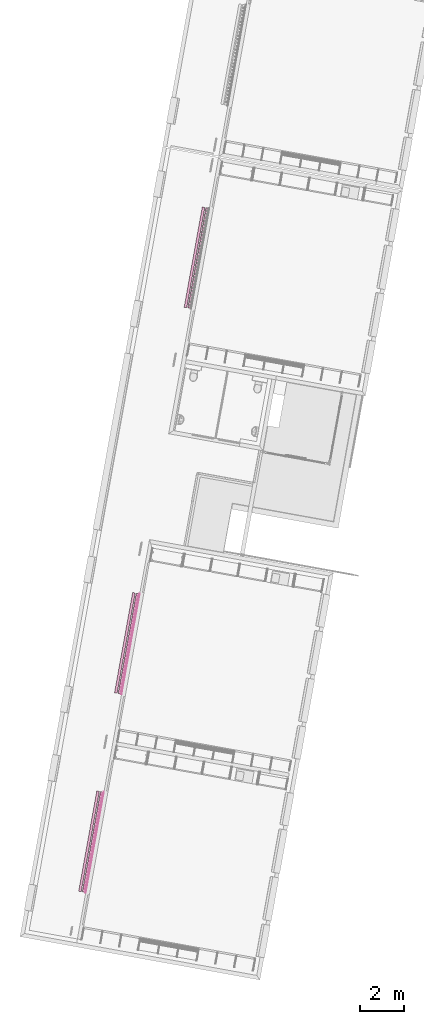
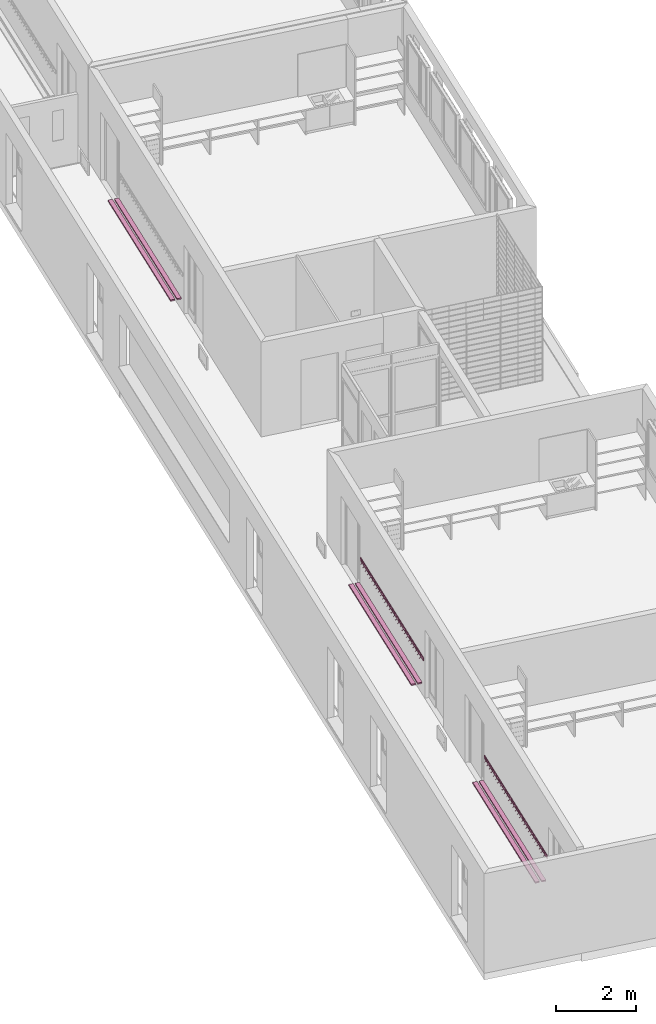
# One storey, part 5 of 52: 5 furnishings.
"""IFC2X3 building model written with IfcOpenShell, lengths in metres."""

from ifc_helpers import new_model, entity, si_unit, converted_unit, derived_unit, money_unit, direction, frame, origin_with_axes, place, context, subcontext, project, spatial, faceted_brep, source, transform, mapped, material, type_object, element, save


model = new_model("IFC2X3")

# Units and contexts
model_context = context("Model", 3, precision=1e-05, world=origin_with_axes(), true_north=direction((0.0, 1.0)))
body_context = subcontext(model_context, "Body", "Model", "MODEL_VIEW")
ifc_project = project(units=[si_unit("LENGTHUNIT", "METRE"), si_unit("AREAUNIT", "SQUARE_METRE"), si_unit("VOLUMEUNIT", "CUBIC_METRE"), converted_unit("PLANEANGLEUNIT", "DEGREE", entity("IfcPlaneAngleMeasure", 0.0174532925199), si_unit("PLANEANGLEUNIT", "RADIAN"), dimensions=[0, 0, 0, 0, 0, 0, 0]), money_unit("CHF"), converted_unit("TIMEUNIT", "Year", entity("IfcTimeMeasure", 31556926.0), si_unit("TIMEUNIT", "SECOND"), dimensions=[0, 0, 1, 0, 0, 0, 0]), si_unit("MASSUNIT", "GRAM", prefix="KILO"), si_unit("THERMODYNAMICTEMPERATUREUNIT", "DEGREE_CELSIUS"), si_unit("LUMINOUSINTENSITYUNIT", "LUMEN"), si_unit("ENERGYUNIT", "JOULE", prefix="MEGA"), derived_unit("THERMALCONDUCTANCEUNIT", [(si_unit("POWERUNIT", "WATT"), 1), (si_unit("LENGTHUNIT", "METRE"), -1), (si_unit("THERMODYNAMICTEMPERATUREUNIT", "KELVIN"), -1)]), derived_unit("SPECIFICHEATCAPACITYUNIT", [(si_unit("ENERGYUNIT", "JOULE"), 1), (si_unit("MASSUNIT", "GRAM", prefix="KILO"), -1), (si_unit("THERMODYNAMICTEMPERATUREUNIT", "KELVIN"), -1)]), derived_unit("MASSDENSITYUNIT", [(si_unit("MASSUNIT", "GRAM", prefix="KILO"), 1), (si_unit("VOLUMEUNIT", "CUBIC_METRE"), -1)])], contexts=[model_context])

# Site, building, storey
site_placement = place(None, frame((0.0, 0.0, 0.0), z_axis=(0.0, 0.0, 1.0), x_axis=(-0.177771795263, -0.984071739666, 0.0)))
site = spatial("IfcSite", under=ifc_project, at=site_placement, Name="Site", CompositionType="ELEMENT")
building_placement = place(site_placement, origin_with_axes())
building = spatial("IfcBuilding", under=site, at=building_placement, Name="Bâtiment", CompositionType="ELEMENT")
storey_placement = place(building_placement, frame((0.0, 0.0, 3.2), z_axis=(0.0, 0.0, 1.0), x_axis=(1.0, 0.0, 0.0)))
storey = spatial("IfcBuildingStorey", under=building, at=storey_placement, Name="R+1", CompositionType="ELEMENT", Elevation=3.2)

# Furnishings
ifc_material_1 = material(Name="Matériau de construction IFC")
furnishing_element_type_1 = type_object("IfcFurnishingElementType", Name="Râtelier mural 21")
shared_shape_1 = source(origin_with_axes(), body_context, "Body", "Brep", [
    faceted_brep([(-2.33000000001, 0.0, 0.0), (2.33000000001, 0.0, 0.0), (2.33000000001, -0.02, 0.0), (-2.33000000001, -0.02, 0.0), (-2.33000000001, 0.0, 0.1), (2.33000000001, 0.0, 0.1), (2.33000000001, -0.02, 0.1), (-2.33000000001, -0.02, 0.1)], [[[0, 1, 2, 3]], [[1, 0, 4, 5]], [[2, 1, 5, 6]], [[3, 2, 6, 7]], [[0, 3, 7, 4]], [[5, 4, 7, 6]]]),
    faceted_brep([(2.16862068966, -0.06, -0.015), (2.16862068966, -0.02, 0.025), (2.18862068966, -0.02, 0.025), (2.18862068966, -0.06, -0.015), (2.16862068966, -0.07, 0.0), (2.16862068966, -0.0675, 0.0), (2.16862068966, -0.06, -0.01), (2.16862068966, -0.025, 0.03), (2.16862068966, -0.025, 0.07), (2.16862068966, -0.06, 0.11), (2.16862068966, -0.06, 0.115), (2.16862068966, -0.02, 0.075), (2.18862068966, -0.02, 0.075), (2.18862068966, -0.06, 0.115), (2.18862068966, -0.06, 0.11), (2.18862068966, -0.025, 0.07), (2.18862068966, -0.025, 0.03), (2.18862068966, -0.06, -0.01), (2.18862068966, -0.0675, 0.0), (2.18862068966, -0.07, 0.0)], [[[0, 1, 2, 3]], [[0, 4, 5, 6, 7, 8, 9, 10, 11, 1]], [[1, 11, 12, 2]], [[3, 2, 12, 13, 14, 15, 16, 17, 18, 19]], [[4, 0, 3, 19]], [[5, 4, 19, 18]], [[6, 5, 18, 17]], [[7, 6, 17, 16]], [[8, 7, 16, 15]], [[9, 8, 15, 14]], [[10, 9, 14, 13]], [[11, 10, 13, 12]]]),
    faceted_brep([(2.00724137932, -0.06, -0.015), (2.00724137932, -0.02, 0.025), (2.02724137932, -0.02, 0.025), (2.02724137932, -0.06, -0.015), (2.00724137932, -0.07, 0.0), (2.00724137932, -0.0675, 0.0), (2.00724137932, -0.06, -0.01), (2.00724137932, -0.025, 0.03), (2.00724137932, -0.025, 0.07), (2.00724137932, -0.06, 0.11), (2.00724137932, -0.06, 0.115), (2.00724137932, -0.02, 0.075), (2.02724137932, -0.02, 0.075), (2.02724137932, -0.06, 0.115), (2.02724137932, -0.06, 0.11), (2.02724137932, -0.025, 0.07), (2.02724137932, -0.025, 0.03), (2.02724137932, -0.06, -0.01), (2.02724137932, -0.0675, 0.0), (2.02724137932, -0.07, 0.0)], [[[0, 1, 2, 3]], [[0, 4, 5, 6, 7, 8, 9, 10, 11, 1]], [[1, 11, 12, 2]], [[3, 2, 12, 13, 14, 15, 16, 17, 18, 19]], [[4, 0, 3, 19]], [[5, 4, 19, 18]], [[6, 5, 18, 17]], [[7, 6, 17, 16]], [[8, 7, 16, 15]], [[9, 8, 15, 14]], [[10, 9, 14, 13]], [[11, 10, 13, 12]]]),
    faceted_brep([(1.84586206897, -0.06, -0.015), (1.84586206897, -0.02, 0.025), (1.86586206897, -0.02, 0.025), (1.86586206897, -0.06, -0.015), (1.84586206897, -0.07, 0.0), (1.84586206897, -0.0675, 0.0), (1.84586206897, -0.06, -0.01), (1.84586206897, -0.025, 0.03), (1.84586206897, -0.025, 0.07), (1.84586206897, -0.06, 0.11), (1.84586206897, -0.06, 0.115), (1.84586206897, -0.02, 0.075), (1.86586206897, -0.02, 0.075), (1.86586206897, -0.06, 0.115), (1.86586206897, -0.06, 0.11), (1.86586206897, -0.025, 0.07), (1.86586206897, -0.025, 0.03), (1.86586206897, -0.06, -0.01), (1.86586206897, -0.0675, 0.0), (1.86586206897, -0.07, 0.0)], [[[0, 1, 2, 3]], [[0, 4, 5, 6, 7, 8, 9, 10, 11, 1]], [[1, 11, 12, 2]], [[3, 2, 12, 13, 14, 15, 16, 17, 18, 19]], [[4, 0, 3, 19]], [[5, 4, 19, 18]], [[6, 5, 18, 17]], [[7, 6, 17, 16]], [[8, 7, 16, 15]], [[9, 8, 15, 14]], [[10, 9, 14, 13]], [[11, 10, 13, 12]]]),
    faceted_brep([(1.68448275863, -0.06, -0.015), (1.68448275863, -0.02, 0.025), (1.70448275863, -0.02, 0.025), (1.70448275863, -0.06, -0.015), (1.68448275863, -0.07, 0.0), (1.68448275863, -0.0675, 0.0), (1.68448275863, -0.06, -0.01), (1.68448275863, -0.025, 0.03), (1.68448275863, -0.025, 0.07), (1.68448275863, -0.06, 0.11), (1.68448275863, -0.06, 0.115), (1.68448275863, -0.02, 0.075), (1.70448275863, -0.02, 0.075), (1.70448275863, -0.06, 0.115), (1.70448275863, -0.06, 0.11), (1.70448275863, -0.025, 0.07), (1.70448275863, -0.025, 0.03), (1.70448275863, -0.06, -0.01), (1.70448275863, -0.0675, 0.0), (1.70448275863, -0.07, 0.0)], [[[0, 1, 2, 3]], [[0, 4, 5, 6, 7, 8, 9, 10, 11, 1]], [[1, 11, 12, 2]], [[3, 2, 12, 13, 14, 15, 16, 17, 18, 19]], [[4, 0, 3, 19]], [[5, 4, 19, 18]], [[6, 5, 18, 17]], [[7, 6, 17, 16]], [[8, 7, 16, 15]], [[9, 8, 15, 14]], [[10, 9, 14, 13]], [[11, 10, 13, 12]]]),
    faceted_brep([(1.52310344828, -0.06, -0.015), (1.52310344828, -0.02, 0.025), (1.54310344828, -0.02, 0.025), (1.54310344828, -0.06, -0.015), (1.52310344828, -0.07, 0.0), (1.52310344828, -0.0675, 0.0), (1.52310344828, -0.06, -0.01), (1.52310344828, -0.025, 0.03), (1.52310344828, -0.025, 0.07), (1.52310344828, -0.06, 0.11), (1.52310344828, -0.06, 0.115), (1.52310344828, -0.02, 0.075), (1.54310344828, -0.02, 0.075), (1.54310344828, -0.06, 0.115), (1.54310344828, -0.06, 0.11), (1.54310344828, -0.025, 0.07), (1.54310344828, -0.025, 0.03), (1.54310344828, -0.06, -0.01), (1.54310344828, -0.0675, 0.0), (1.54310344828, -0.07, 0.0)], [[[0, 1, 2, 3]], [[0, 4, 5, 6, 7, 8, 9, 10, 11, 1]], [[1, 11, 12, 2]], [[3, 2, 12, 13, 14, 15, 16, 17, 18, 19]], [[4, 0, 3, 19]], [[5, 4, 19, 18]], [[6, 5, 18, 17]], [[7, 6, 17, 16]], [[8, 7, 16, 15]], [[9, 8, 15, 14]], [[10, 9, 14, 13]], [[11, 10, 13, 12]]]),
    faceted_brep([(1.36172413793, -0.06, -0.015), (1.36172413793, -0.02, 0.025), (1.38172413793, -0.02, 0.025), (1.38172413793, -0.06, -0.015), (1.36172413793, -0.07, 0.0), (1.36172413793, -0.0675, 0.0), (1.36172413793, -0.06, -0.01), (1.36172413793, -0.025, 0.03), (1.36172413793, -0.025, 0.07), (1.36172413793, -0.06, 0.11), (1.36172413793, -0.06, 0.115), (1.36172413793, -0.02, 0.075), (1.38172413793, -0.02, 0.075), (1.38172413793, -0.06, 0.115), (1.38172413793, -0.06, 0.11), (1.38172413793, -0.025, 0.07), (1.38172413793, -0.025, 0.03), (1.38172413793, -0.06, -0.01), (1.38172413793, -0.0675, 0.0), (1.38172413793, -0.07, 0.0)], [[[0, 1, 2, 3]], [[0, 4, 5, 6, 7, 8, 9, 10, 11, 1]], [[1, 11, 12, 2]], [[3, 2, 12, 13, 14, 15, 16, 17, 18, 19]], [[4, 0, 3, 19]], [[5, 4, 19, 18]], [[6, 5, 18, 17]], [[7, 6, 17, 16]], [[8, 7, 16, 15]], [[9, 8, 15, 14]], [[10, 9, 14, 13]], [[11, 10, 13, 12]]]),
    faceted_brep([(1.20034482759, -0.06, -0.015), (1.20034482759, -0.02, 0.025), (1.22034482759, -0.02, 0.025), (1.22034482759, -0.06, -0.015), (1.20034482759, -0.07, 0.0), (1.20034482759, -0.0675, 0.0), (1.20034482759, -0.06, -0.01), (1.20034482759, -0.025, 0.03), (1.20034482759, -0.025, 0.07), (1.20034482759, -0.06, 0.11), (1.20034482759, -0.06, 0.115), (1.20034482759, -0.02, 0.075), (1.22034482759, -0.02, 0.075), (1.22034482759, -0.06, 0.115), (1.22034482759, -0.06, 0.11), (1.22034482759, -0.025, 0.07), (1.22034482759, -0.025, 0.03), (1.22034482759, -0.06, -0.01), (1.22034482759, -0.0675, 0.0), (1.22034482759, -0.07, 0.0)], [[[0, 1, 2, 3]], [[0, 4, 5, 6, 7, 8, 9, 10, 11, 1]], [[1, 11, 12, 2]], [[3, 2, 12, 13, 14, 15, 16, 17, 18, 19]], [[4, 0, 3, 19]], [[5, 4, 19, 18]], [[6, 5, 18, 17]], [[7, 6, 17, 16]], [[8, 7, 16, 15]], [[9, 8, 15, 14]], [[10, 9, 14, 13]], [[11, 10, 13, 12]]]),
    faceted_brep([(1.03896551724, -0.06, -0.015), (1.03896551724, -0.02, 0.025), (1.05896551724, -0.02, 0.025), (1.05896551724, -0.06, -0.015), (1.03896551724, -0.07, 0.0), (1.03896551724, -0.0675, 0.0), (1.03896551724, -0.06, -0.01), (1.03896551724, -0.025, 0.03), (1.03896551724, -0.025, 0.07), (1.03896551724, -0.06, 0.11), (1.03896551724, -0.06, 0.115), (1.03896551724, -0.02, 0.075), (1.05896551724, -0.02, 0.075), (1.05896551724, -0.06, 0.115), (1.05896551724, -0.06, 0.11), (1.05896551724, -0.025, 0.07), (1.05896551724, -0.025, 0.03), (1.05896551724, -0.06, -0.01), (1.05896551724, -0.0675, 0.0), (1.05896551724, -0.07, 0.0)], [[[0, 1, 2, 3]], [[0, 4, 5, 6, 7, 8, 9, 10, 11, 1]], [[1, 11, 12, 2]], [[3, 2, 12, 13, 14, 15, 16, 17, 18, 19]], [[4, 0, 3, 19]], [[5, 4, 19, 18]], [[6, 5, 18, 17]], [[7, 6, 17, 16]], [[8, 7, 16, 15]], [[9, 8, 15, 14]], [[10, 9, 14, 13]], [[11, 10, 13, 12]]]),
    faceted_brep([(0.877586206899, -0.06, -0.015), (0.877586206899, -0.02, 0.025), (0.897586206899, -0.02, 0.025), (0.897586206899, -0.06, -0.015), (0.877586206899, -0.07, 0.0), (0.877586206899, -0.0675, 0.0), (0.877586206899, -0.06, -0.01), (0.877586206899, -0.025, 0.03), (0.877586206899, -0.025, 0.07), (0.877586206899, -0.06, 0.11), (0.877586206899, -0.06, 0.115), (0.877586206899, -0.02, 0.075), (0.897586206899, -0.02, 0.075), (0.897586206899, -0.06, 0.115), (0.897586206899, -0.06, 0.11), (0.897586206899, -0.025, 0.07), (0.897586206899, -0.025, 0.03), (0.897586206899, -0.06, -0.01), (0.897586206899, -0.0675, 0.0), (0.897586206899, -0.07, 0.0)], [[[0, 1, 2, 3]], [[0, 4, 5, 6, 7, 8, 9, 10, 11, 1]], [[1, 11, 12, 2]], [[3, 2, 12, 13, 14, 15, 16, 17, 18, 19]], [[4, 0, 3, 19]], [[5, 4, 19, 18]], [[6, 5, 18, 17]], [[7, 6, 17, 16]], [[8, 7, 16, 15]], [[9, 8, 15, 14]], [[10, 9, 14, 13]], [[11, 10, 13, 12]]]),
    faceted_brep([(0.716206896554, -0.06, -0.015), (0.716206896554, -0.02, 0.025), (0.736206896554, -0.02, 0.025), (0.736206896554, -0.06, -0.015), (0.716206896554, -0.07, 0.0), (0.716206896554, -0.0675, 0.0), (0.716206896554, -0.06, -0.01), (0.716206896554, -0.025, 0.03), (0.716206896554, -0.025, 0.07), (0.716206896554, -0.06, 0.11), (0.716206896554, -0.06, 0.115), (0.716206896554, -0.02, 0.075), (0.736206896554, -0.02, 0.075), (0.736206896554, -0.06, 0.115), (0.736206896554, -0.06, 0.11), (0.736206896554, -0.025, 0.07), (0.736206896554, -0.025, 0.03), (0.736206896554, -0.06, -0.01), (0.736206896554, -0.0675, 0.0), (0.736206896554, -0.07, 0.0)], [[[0, 1, 2, 3]], [[0, 4, 5, 6, 7, 8, 9, 10, 11, 1]], [[1, 11, 12, 2]], [[3, 2, 12, 13, 14, 15, 16, 17, 18, 19]], [[4, 0, 3, 19]], [[5, 4, 19, 18]], [[6, 5, 18, 17]], [[7, 6, 17, 16]], [[8, 7, 16, 15]], [[9, 8, 15, 14]], [[10, 9, 14, 13]], [[11, 10, 13, 12]]]),
    faceted_brep([(0.554827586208, -0.06, -0.015), (0.554827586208, -0.02, 0.025), (0.574827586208, -0.02, 0.025), (0.574827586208, -0.06, -0.015), (0.554827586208, -0.07, 0.0), (0.554827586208, -0.0675, 0.0), (0.554827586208, -0.06, -0.01), (0.554827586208, -0.025, 0.03), (0.554827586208, -0.025, 0.07), (0.554827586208, -0.06, 0.11), (0.554827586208, -0.06, 0.115), (0.554827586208, -0.02, 0.075), (0.574827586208, -0.02, 0.075), (0.574827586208, -0.06, 0.115), (0.574827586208, -0.06, 0.11), (0.574827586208, -0.025, 0.07), (0.574827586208, -0.025, 0.03), (0.574827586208, -0.06, -0.01), (0.574827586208, -0.0675, 0.0), (0.574827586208, -0.07, 0.0)], [[[0, 1, 2, 3]], [[0, 4, 5, 6, 7, 8, 9, 10, 11, 1]], [[1, 11, 12, 2]], [[3, 2, 12, 13, 14, 15, 16, 17, 18, 19]], [[4, 0, 3, 19]], [[5, 4, 19, 18]], [[6, 5, 18, 17]], [[7, 6, 17, 16]], [[8, 7, 16, 15]], [[9, 8, 15, 14]], [[10, 9, 14, 13]], [[11, 10, 13, 12]]]),
    faceted_brep([(0.393448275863, -0.06, -0.015), (0.393448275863, -0.02, 0.025), (0.413448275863, -0.02, 0.025), (0.413448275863, -0.06, -0.015), (0.393448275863, -0.07, 0.0), (0.393448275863, -0.0675, 0.0), (0.393448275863, -0.06, -0.01), (0.393448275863, -0.025, 0.03), (0.393448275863, -0.025, 0.07), (0.393448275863, -0.06, 0.11), (0.393448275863, -0.06, 0.115), (0.393448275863, -0.02, 0.075), (0.413448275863, -0.02, 0.075), (0.413448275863, -0.06, 0.115), (0.413448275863, -0.06, 0.11), (0.413448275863, -0.025, 0.07), (0.413448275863, -0.025, 0.03), (0.413448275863, -0.06, -0.01), (0.413448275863, -0.0675, 0.0), (0.413448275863, -0.07, 0.0)], [[[0, 1, 2, 3]], [[0, 4, 5, 6, 7, 8, 9, 10, 11, 1]], [[1, 11, 12, 2]], [[3, 2, 12, 13, 14, 15, 16, 17, 18, 19]], [[4, 0, 3, 19]], [[5, 4, 19, 18]], [[6, 5, 18, 17]], [[7, 6, 17, 16]], [[8, 7, 16, 15]], [[9, 8, 15, 14]], [[10, 9, 14, 13]], [[11, 10, 13, 12]]]),
    faceted_brep([(0.232068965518, -0.06, -0.015), (0.232068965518, -0.02, 0.025), (0.252068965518, -0.02, 0.025), (0.252068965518, -0.06, -0.015), (0.232068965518, -0.07, 0.0), (0.232068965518, -0.0675, 0.0), (0.232068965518, -0.06, -0.01), (0.232068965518, -0.025, 0.03), (0.232068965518, -0.025, 0.07), (0.232068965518, -0.06, 0.11), (0.232068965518, -0.06, 0.115), (0.232068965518, -0.02, 0.075), (0.252068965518, -0.02, 0.075), (0.252068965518, -0.06, 0.115), (0.252068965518, -0.06, 0.11), (0.252068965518, -0.025, 0.07), (0.252068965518, -0.025, 0.03), (0.252068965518, -0.06, -0.01), (0.252068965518, -0.0675, 0.0), (0.252068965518, -0.07, 0.0)], [[[0, 1, 2, 3]], [[0, 4, 5, 6, 7, 8, 9, 10, 11, 1]], [[1, 11, 12, 2]], [[3, 2, 12, 13, 14, 15, 16, 17, 18, 19]], [[4, 0, 3, 19]], [[5, 4, 19, 18]], [[6, 5, 18, 17]], [[7, 6, 17, 16]], [[8, 7, 16, 15]], [[9, 8, 15, 14]], [[10, 9, 14, 13]], [[11, 10, 13, 12]]]),
    faceted_brep([(0.0706896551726, -0.06, -0.015), (0.0706896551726, -0.02, 0.025), (0.0906896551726, -0.02, 0.025), (0.0906896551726, -0.06, -0.015), (0.0706896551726, -0.07, 0.0), (0.0706896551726, -0.0675, 0.0), (0.0706896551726, -0.06, -0.01), (0.0706896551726, -0.025, 0.03), (0.0706896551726, -0.025, 0.07), (0.0706896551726, -0.06, 0.11), (0.0706896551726, -0.06, 0.115), (0.0706896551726, -0.02, 0.075), (0.0906896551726, -0.02, 0.075), (0.0906896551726, -0.06, 0.115), (0.0906896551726, -0.06, 0.11), (0.0906896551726, -0.025, 0.07), (0.0906896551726, -0.025, 0.03), (0.0906896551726, -0.06, -0.01), (0.0906896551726, -0.0675, 0.0), (0.0906896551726, -0.07, 0.0)], [[[0, 1, 2, 3]], [[0, 4, 5, 6, 7, 8, 9, 10, 11, 1]], [[1, 11, 12, 2]], [[3, 2, 12, 13, 14, 15, 16, 17, 18, 19]], [[4, 0, 3, 19]], [[5, 4, 19, 18]], [[6, 5, 18, 17]], [[7, 6, 17, 16]], [[8, 7, 16, 15]], [[9, 8, 15, 14]], [[10, 9, 14, 13]], [[11, 10, 13, 12]]]),
    faceted_brep([(-0.0906896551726, -0.06, -0.015), (-0.0906896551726, -0.02, 0.025), (-0.0706896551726, -0.02, 0.025), (-0.0706896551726, -0.06, -0.015), (-0.0906896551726, -0.07, 0.0), (-0.0906896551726, -0.0675, 0.0), (-0.0906896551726, -0.06, -0.01), (-0.0906896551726, -0.025, 0.03), (-0.0906896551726, -0.025, 0.07), (-0.0906896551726, -0.06, 0.11), (-0.0906896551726, -0.06, 0.115), (-0.0906896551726, -0.02, 0.075), (-0.0706896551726, -0.02, 0.075), (-0.0706896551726, -0.06, 0.115), (-0.0706896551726, -0.06, 0.11), (-0.0706896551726, -0.025, 0.07), (-0.0706896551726, -0.025, 0.03), (-0.0706896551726, -0.06, -0.01), (-0.0706896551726, -0.0675, 0.0), (-0.0706896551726, -0.07, 0.0)], [[[0, 1, 2, 3]], [[0, 4, 5, 6, 7, 8, 9, 10, 11, 1]], [[1, 11, 12, 2]], [[3, 2, 12, 13, 14, 15, 16, 17, 18, 19]], [[4, 0, 3, 19]], [[5, 4, 19, 18]], [[6, 5, 18, 17]], [[7, 6, 17, 16]], [[8, 7, 16, 15]], [[9, 8, 15, 14]], [[10, 9, 14, 13]], [[11, 10, 13, 12]]]),
    faceted_brep([(-0.252068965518, -0.06, -0.015), (-0.252068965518, -0.02, 0.025), (-0.232068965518, -0.02, 0.025), (-0.232068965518, -0.06, -0.015), (-0.252068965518, -0.07, 0.0), (-0.252068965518, -0.0675, 0.0), (-0.252068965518, -0.06, -0.01), (-0.252068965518, -0.025, 0.03), (-0.252068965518, -0.025, 0.07), (-0.252068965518, -0.06, 0.11), (-0.252068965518, -0.06, 0.115), (-0.252068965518, -0.02, 0.075), (-0.232068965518, -0.02, 0.075), (-0.232068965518, -0.06, 0.115), (-0.232068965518, -0.06, 0.11), (-0.232068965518, -0.025, 0.07), (-0.232068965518, -0.025, 0.03), (-0.232068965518, -0.06, -0.01), (-0.232068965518, -0.0675, 0.0), (-0.232068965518, -0.07, 0.0)], [[[0, 1, 2, 3]], [[0, 4, 5, 6, 7, 8, 9, 10, 11, 1]], [[1, 11, 12, 2]], [[3, 2, 12, 13, 14, 15, 16, 17, 18, 19]], [[4, 0, 3, 19]], [[5, 4, 19, 18]], [[6, 5, 18, 17]], [[7, 6, 17, 16]], [[8, 7, 16, 15]], [[9, 8, 15, 14]], [[10, 9, 14, 13]], [[11, 10, 13, 12]]]),
    faceted_brep([(-0.413448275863, -0.06, -0.015), (-0.413448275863, -0.02, 0.025), (-0.393448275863, -0.02, 0.025), (-0.393448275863, -0.06, -0.015), (-0.413448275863, -0.07, 0.0), (-0.413448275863, -0.0675, 0.0), (-0.413448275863, -0.06, -0.01), (-0.413448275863, -0.025, 0.03), (-0.413448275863, -0.025, 0.07), (-0.413448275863, -0.06, 0.11), (-0.413448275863, -0.06, 0.115), (-0.413448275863, -0.02, 0.075), (-0.393448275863, -0.02, 0.075), (-0.393448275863, -0.06, 0.115), (-0.393448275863, -0.06, 0.11), (-0.393448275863, -0.025, 0.07), (-0.393448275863, -0.025, 0.03), (-0.393448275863, -0.06, -0.01), (-0.393448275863, -0.0675, 0.0), (-0.393448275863, -0.07, 0.0)], [[[0, 1, 2, 3]], [[0, 4, 5, 6, 7, 8, 9, 10, 11, 1]], [[1, 11, 12, 2]], [[3, 2, 12, 13, 14, 15, 16, 17, 18, 19]], [[4, 0, 3, 19]], [[5, 4, 19, 18]], [[6, 5, 18, 17]], [[7, 6, 17, 16]], [[8, 7, 16, 15]], [[9, 8, 15, 14]], [[10, 9, 14, 13]], [[11, 10, 13, 12]]]),
    faceted_brep([(-0.574827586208, -0.06, -0.015), (-0.574827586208, -0.02, 0.025), (-0.554827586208, -0.02, 0.025), (-0.554827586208, -0.06, -0.015), (-0.574827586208, -0.07, 0.0), (-0.574827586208, -0.0675, 0.0), (-0.574827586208, -0.06, -0.01), (-0.574827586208, -0.025, 0.03), (-0.574827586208, -0.025, 0.07), (-0.574827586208, -0.06, 0.11), (-0.574827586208, -0.06, 0.115), (-0.574827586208, -0.02, 0.075), (-0.554827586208, -0.02, 0.075), (-0.554827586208, -0.06, 0.115), (-0.554827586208, -0.06, 0.11), (-0.554827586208, -0.025, 0.07), (-0.554827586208, -0.025, 0.03), (-0.554827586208, -0.06, -0.01), (-0.554827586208, -0.0675, 0.0), (-0.554827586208, -0.07, 0.0)], [[[0, 1, 2, 3]], [[0, 4, 5, 6, 7, 8, 9, 10, 11, 1]], [[1, 11, 12, 2]], [[3, 2, 12, 13, 14, 15, 16, 17, 18, 19]], [[4, 0, 3, 19]], [[5, 4, 19, 18]], [[6, 5, 18, 17]], [[7, 6, 17, 16]], [[8, 7, 16, 15]], [[9, 8, 15, 14]], [[10, 9, 14, 13]], [[11, 10, 13, 12]]]),
    faceted_brep([(-0.736206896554, -0.06, -0.015), (-0.736206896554, -0.02, 0.025), (-0.716206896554, -0.02, 0.025), (-0.716206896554, -0.06, -0.015), (-0.736206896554, -0.07, 0.0), (-0.736206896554, -0.0675, 0.0), (-0.736206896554, -0.06, -0.01), (-0.736206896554, -0.025, 0.03), (-0.736206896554, -0.025, 0.07), (-0.736206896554, -0.06, 0.11), (-0.736206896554, -0.06, 0.115), (-0.736206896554, -0.02, 0.075), (-0.716206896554, -0.02, 0.075), (-0.716206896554, -0.06, 0.115), (-0.716206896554, -0.06, 0.11), (-0.716206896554, -0.025, 0.07), (-0.716206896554, -0.025, 0.03), (-0.716206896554, -0.06, -0.01), (-0.716206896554, -0.0675, 0.0), (-0.716206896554, -0.07, 0.0)], [[[0, 1, 2, 3]], [[0, 4, 5, 6, 7, 8, 9, 10, 11, 1]], [[1, 11, 12, 2]], [[3, 2, 12, 13, 14, 15, 16, 17, 18, 19]], [[4, 0, 3, 19]], [[5, 4, 19, 18]], [[6, 5, 18, 17]], [[7, 6, 17, 16]], [[8, 7, 16, 15]], [[9, 8, 15, 14]], [[10, 9, 14, 13]], [[11, 10, 13, 12]]]),
    faceted_brep([(-0.897586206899, -0.06, -0.015), (-0.897586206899, -0.02, 0.025), (-0.877586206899, -0.02, 0.025), (-0.877586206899, -0.06, -0.015), (-0.897586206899, -0.07, 0.0), (-0.897586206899, -0.0675, 0.0), (-0.897586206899, -0.06, -0.01), (-0.897586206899, -0.025, 0.03), (-0.897586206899, -0.025, 0.07), (-0.897586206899, -0.06, 0.11), (-0.897586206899, -0.06, 0.115), (-0.897586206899, -0.02, 0.075), (-0.877586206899, -0.02, 0.075), (-0.877586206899, -0.06, 0.115), (-0.877586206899, -0.06, 0.11), (-0.877586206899, -0.025, 0.07), (-0.877586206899, -0.025, 0.03), (-0.877586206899, -0.06, -0.01), (-0.877586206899, -0.0675, 0.0), (-0.877586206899, -0.07, 0.0)], [[[0, 1, 2, 3]], [[0, 4, 5, 6, 7, 8, 9, 10, 11, 1]], [[1, 11, 12, 2]], [[3, 2, 12, 13, 14, 15, 16, 17, 18, 19]], [[4, 0, 3, 19]], [[5, 4, 19, 18]], [[6, 5, 18, 17]], [[7, 6, 17, 16]], [[8, 7, 16, 15]], [[9, 8, 15, 14]], [[10, 9, 14, 13]], [[11, 10, 13, 12]]]),
    faceted_brep([(-1.05896551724, -0.06, -0.015), (-1.05896551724, -0.02, 0.025), (-1.03896551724, -0.02, 0.025), (-1.03896551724, -0.06, -0.015), (-1.05896551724, -0.07, 0.0), (-1.05896551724, -0.0675, 0.0), (-1.05896551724, -0.06, -0.01), (-1.05896551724, -0.025, 0.03), (-1.05896551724, -0.025, 0.07), (-1.05896551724, -0.06, 0.11), (-1.05896551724, -0.06, 0.115), (-1.05896551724, -0.02, 0.075), (-1.03896551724, -0.02, 0.075), (-1.03896551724, -0.06, 0.115), (-1.03896551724, -0.06, 0.11), (-1.03896551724, -0.025, 0.07), (-1.03896551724, -0.025, 0.03), (-1.03896551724, -0.06, -0.01), (-1.03896551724, -0.0675, 0.0), (-1.03896551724, -0.07, 0.0)], [[[0, 1, 2, 3]], [[0, 4, 5, 6, 7, 8, 9, 10, 11, 1]], [[1, 11, 12, 2]], [[3, 2, 12, 13, 14, 15, 16, 17, 18, 19]], [[4, 0, 3, 19]], [[5, 4, 19, 18]], [[6, 5, 18, 17]], [[7, 6, 17, 16]], [[8, 7, 16, 15]], [[9, 8, 15, 14]], [[10, 9, 14, 13]], [[11, 10, 13, 12]]]),
    faceted_brep([(-1.22034482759, -0.06, -0.015), (-1.22034482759, -0.02, 0.025), (-1.20034482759, -0.02, 0.025), (-1.20034482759, -0.06, -0.015), (-1.22034482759, -0.07, 0.0), (-1.22034482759, -0.0675, 0.0), (-1.22034482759, -0.06, -0.01), (-1.22034482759, -0.025, 0.03), (-1.22034482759, -0.025, 0.07), (-1.22034482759, -0.06, 0.11), (-1.22034482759, -0.06, 0.115), (-1.22034482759, -0.02, 0.075), (-1.20034482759, -0.02, 0.075), (-1.20034482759, -0.06, 0.115), (-1.20034482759, -0.06, 0.11), (-1.20034482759, -0.025, 0.07), (-1.20034482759, -0.025, 0.03), (-1.20034482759, -0.06, -0.01), (-1.20034482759, -0.0675, 0.0), (-1.20034482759, -0.07, 0.0)], [[[0, 1, 2, 3]], [[0, 4, 5, 6, 7, 8, 9, 10, 11, 1]], [[1, 11, 12, 2]], [[3, 2, 12, 13, 14, 15, 16, 17, 18, 19]], [[4, 0, 3, 19]], [[5, 4, 19, 18]], [[6, 5, 18, 17]], [[7, 6, 17, 16]], [[8, 7, 16, 15]], [[9, 8, 15, 14]], [[10, 9, 14, 13]], [[11, 10, 13, 12]]]),
    faceted_brep([(-1.38172413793, -0.06, -0.015), (-1.38172413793, -0.02, 0.025), (-1.36172413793, -0.02, 0.025), (-1.36172413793, -0.06, -0.015), (-1.38172413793, -0.07, 0.0), (-1.38172413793, -0.0675, 0.0), (-1.38172413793, -0.06, -0.01), (-1.38172413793, -0.025, 0.03), (-1.38172413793, -0.025, 0.07), (-1.38172413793, -0.06, 0.11), (-1.38172413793, -0.06, 0.115), (-1.38172413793, -0.02, 0.075), (-1.36172413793, -0.02, 0.075), (-1.36172413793, -0.06, 0.115), (-1.36172413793, -0.06, 0.11), (-1.36172413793, -0.025, 0.07), (-1.36172413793, -0.025, 0.03), (-1.36172413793, -0.06, -0.01), (-1.36172413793, -0.0675, 0.0), (-1.36172413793, -0.07, 0.0)], [[[0, 1, 2, 3]], [[0, 4, 5, 6, 7, 8, 9, 10, 11, 1]], [[1, 11, 12, 2]], [[3, 2, 12, 13, 14, 15, 16, 17, 18, 19]], [[4, 0, 3, 19]], [[5, 4, 19, 18]], [[6, 5, 18, 17]], [[7, 6, 17, 16]], [[8, 7, 16, 15]], [[9, 8, 15, 14]], [[10, 9, 14, 13]], [[11, 10, 13, 12]]]),
    faceted_brep([(-1.54310344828, -0.06, -0.015), (-1.54310344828, -0.02, 0.025), (-1.52310344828, -0.02, 0.025), (-1.52310344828, -0.06, -0.015), (-1.54310344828, -0.07, 0.0), (-1.54310344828, -0.0675, 0.0), (-1.54310344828, -0.06, -0.01), (-1.54310344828, -0.025, 0.03), (-1.54310344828, -0.025, 0.07), (-1.54310344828, -0.06, 0.11), (-1.54310344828, -0.06, 0.115), (-1.54310344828, -0.02, 0.075), (-1.52310344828, -0.02, 0.075), (-1.52310344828, -0.06, 0.115), (-1.52310344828, -0.06, 0.11), (-1.52310344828, -0.025, 0.07), (-1.52310344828, -0.025, 0.03), (-1.52310344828, -0.06, -0.01), (-1.52310344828, -0.0675, 0.0), (-1.52310344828, -0.07, 0.0)], [[[0, 1, 2, 3]], [[0, 4, 5, 6, 7, 8, 9, 10, 11, 1]], [[1, 11, 12, 2]], [[3, 2, 12, 13, 14, 15, 16, 17, 18, 19]], [[4, 0, 3, 19]], [[5, 4, 19, 18]], [[6, 5, 18, 17]], [[7, 6, 17, 16]], [[8, 7, 16, 15]], [[9, 8, 15, 14]], [[10, 9, 14, 13]], [[11, 10, 13, 12]]]),
    faceted_brep([(-1.70448275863, -0.06, -0.015), (-1.70448275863, -0.02, 0.025), (-1.68448275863, -0.02, 0.025), (-1.68448275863, -0.06, -0.015), (-1.70448275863, -0.07, 0.0), (-1.70448275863, -0.0675, 0.0), (-1.70448275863, -0.06, -0.01), (-1.70448275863, -0.025, 0.03), (-1.70448275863, -0.025, 0.07), (-1.70448275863, -0.06, 0.11), (-1.70448275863, -0.06, 0.115), (-1.70448275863, -0.02, 0.075), (-1.68448275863, -0.02, 0.075), (-1.68448275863, -0.06, 0.115), (-1.68448275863, -0.06, 0.11), (-1.68448275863, -0.025, 0.07), (-1.68448275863, -0.025, 0.03), (-1.68448275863, -0.06, -0.01), (-1.68448275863, -0.0675, 0.0), (-1.68448275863, -0.07, 0.0)], [[[0, 1, 2, 3]], [[0, 4, 5, 6, 7, 8, 9, 10, 11, 1]], [[1, 11, 12, 2]], [[3, 2, 12, 13, 14, 15, 16, 17, 18, 19]], [[4, 0, 3, 19]], [[5, 4, 19, 18]], [[6, 5, 18, 17]], [[7, 6, 17, 16]], [[8, 7, 16, 15]], [[9, 8, 15, 14]], [[10, 9, 14, 13]], [[11, 10, 13, 12]]]),
    faceted_brep([(-1.86586206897, -0.06, -0.015), (-1.86586206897, -0.02, 0.025), (-1.84586206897, -0.02, 0.025), (-1.84586206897, -0.06, -0.015), (-1.86586206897, -0.07, 0.0), (-1.86586206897, -0.0675, 0.0), (-1.86586206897, -0.06, -0.01), (-1.86586206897, -0.025, 0.03), (-1.86586206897, -0.025, 0.07), (-1.86586206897, -0.06, 0.11), (-1.86586206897, -0.06, 0.115), (-1.86586206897, -0.02, 0.075), (-1.84586206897, -0.02, 0.075), (-1.84586206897, -0.06, 0.115), (-1.84586206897, -0.06, 0.11), (-1.84586206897, -0.025, 0.07), (-1.84586206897, -0.025, 0.03), (-1.84586206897, -0.06, -0.01), (-1.84586206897, -0.0675, 0.0), (-1.84586206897, -0.07, 0.0)], [[[0, 1, 2, 3]], [[0, 4, 5, 6, 7, 8, 9, 10, 11, 1]], [[1, 11, 12, 2]], [[3, 2, 12, 13, 14, 15, 16, 17, 18, 19]], [[4, 0, 3, 19]], [[5, 4, 19, 18]], [[6, 5, 18, 17]], [[7, 6, 17, 16]], [[8, 7, 16, 15]], [[9, 8, 15, 14]], [[10, 9, 14, 13]], [[11, 10, 13, 12]]]),
    faceted_brep([(-2.02724137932, -0.06, -0.015), (-2.02724137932, -0.02, 0.025), (-2.00724137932, -0.02, 0.025), (-2.00724137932, -0.06, -0.015), (-2.02724137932, -0.07, 0.0), (-2.02724137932, -0.0675, 0.0), (-2.02724137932, -0.06, -0.01), (-2.02724137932, -0.025, 0.03), (-2.02724137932, -0.025, 0.07), (-2.02724137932, -0.06, 0.11), (-2.02724137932, -0.06, 0.115), (-2.02724137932, -0.02, 0.075), (-2.00724137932, -0.02, 0.075), (-2.00724137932, -0.06, 0.115), (-2.00724137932, -0.06, 0.11), (-2.00724137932, -0.025, 0.07), (-2.00724137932, -0.025, 0.03), (-2.00724137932, -0.06, -0.01), (-2.00724137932, -0.0675, 0.0), (-2.00724137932, -0.07, 0.0)], [[[0, 1, 2, 3]], [[0, 4, 5, 6, 7, 8, 9, 10, 11, 1]], [[1, 11, 12, 2]], [[3, 2, 12, 13, 14, 15, 16, 17, 18, 19]], [[4, 0, 3, 19]], [[5, 4, 19, 18]], [[6, 5, 18, 17]], [[7, 6, 17, 16]], [[8, 7, 16, 15]], [[9, 8, 15, 14]], [[10, 9, 14, 13]], [[11, 10, 13, 12]]]),
    faceted_brep([(-2.18862068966, -0.06, -0.015), (-2.18862068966, -0.02, 0.025), (-2.16862068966, -0.02, 0.025), (-2.16862068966, -0.06, -0.015), (-2.18862068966, -0.07, 0.0), (-2.18862068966, -0.0675, 0.0), (-2.18862068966, -0.06, -0.01), (-2.18862068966, -0.025, 0.03), (-2.18862068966, -0.025, 0.07), (-2.18862068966, -0.06, 0.11), (-2.18862068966, -0.06, 0.115), (-2.18862068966, -0.02, 0.075), (-2.16862068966, -0.02, 0.075), (-2.16862068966, -0.06, 0.115), (-2.16862068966, -0.06, 0.11), (-2.16862068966, -0.025, 0.07), (-2.16862068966, -0.025, 0.03), (-2.16862068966, -0.06, -0.01), (-2.16862068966, -0.0675, 0.0), (-2.16862068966, -0.07, 0.0)], [[[0, 1, 2, 3]], [[0, 4, 5, 6, 7, 8, 9, 10, 11, 1]], [[1, 11, 12, 2]], [[3, 2, 12, 13, 14, 15, 16, 17, 18, 19]], [[4, 0, 3, 19]], [[5, 4, 19, 18]], [[6, 5, 18, 17]], [[7, 6, 17, 16]], [[8, 7, 16, 15]], [[9, 8, 15, 14]], [[10, 9, 14, 13]], [[11, 10, 13, 12]]]),
])
for number, where, z_axis, x_axis, name in (
    (1, (151.019841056, -156.627251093, 1.1), (0.0, 0.0, 1.0), (1.0, 0.0, 0.0), "pateres-couloir"),
    (2, (160.199840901, -156.627251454, 1.1), (0.0, 0.0, 1.0), (1.0, 0.0, 0.0), "pateres-couloir"),
):
    element("IfcFurnishingElement", number, at=place(storey_placement, frame(where, z_axis=z_axis, x_axis=x_axis)), inside=storey, type_object=furnishing_element_type_1, material=ifc_material_1, Name=name, ObjectType="SYSTEM_FURNITURE", context=body_context, shape_type="MappedRepresentation", body=[
        mapped(shared_shape_1, transform((0.0, 0.0, 0.0))),
    ])
ifc_material_2 = material(Name="_Bois contreplaqué")
furnishing_element_type_2 = type_object("IfcFurnishingElementType", Name="Banc-couloir")
shared_shape_2 = source(origin_with_axes(), body_context, "Body", "Brep", [
    faceted_brep([(0.0, 0.0, 0.38), (2.3200000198, 0.0, 0.38), (2.3200000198, 0.0, 0.42), (0.0, 0.0, 0.42), (0.0, 0.12, 0.38), (2.3200000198, 0.12, 0.38), (2.3200000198, 0.12, 0.42), (0.0, 0.12, 0.42)], [[[0, 1, 2, 3]], [[0, 4, 5, 1]], [[1, 5, 6, 2]], [[3, 2, 6, 7]], [[4, 0, 3, 7]], [[5, 4, 7, 6]]]),
    faceted_brep([(0.0, 0.17, 0.38), (2.3200000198, 0.17, 0.38), (2.3200000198, 0.17, 0.42), (0.0, 0.17, 0.42), (0.0, 0.29, 0.38), (2.3200000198, 0.29, 0.38), (2.3200000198, 0.29, 0.42), (0.0, 0.29, 0.42)], [[[0, 1, 2, 3]], [[0, 4, 5, 1]], [[1, 5, 6, 2]], [[3, 2, 6, 7]], [[4, 0, 3, 7]], [[5, 4, 7, 6]]]),
    faceted_brep([(2.3199999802, 0.0, 0.38), (4.64, 0.0, 0.38), (4.64, 0.0, 0.42), (2.3199999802, 0.0, 0.42), (2.3199999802, 0.12, 0.38), (4.64, 0.12, 0.38), (4.64, 0.12, 0.42), (2.3199999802, 0.12, 0.42)], [[[0, 1, 2, 3]], [[0, 4, 5, 1]], [[1, 5, 6, 2]], [[3, 2, 6, 7]], [[4, 0, 3, 7]], [[5, 4, 7, 6]]]),
    faceted_brep([(2.3199999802, 0.17, 0.38), (4.64, 0.17, 0.38), (4.64, 0.17, 0.42), (2.3199999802, 0.17, 0.42), (2.3199999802, 0.29, 0.38), (4.64, 0.29, 0.38), (4.64, 0.29, 0.42), (2.3199999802, 0.29, 0.42)], [[[0, 1, 2, 3]], [[0, 4, 5, 1]], [[1, 5, 6, 2]], [[3, 2, 6, 7]], [[4, 0, 3, 7]], [[5, 4, 7, 6]]]),
])
for number, where, z_axis, x_axis, name in (
    (3, (130.865035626, -156.957251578, 0.03), (0.0, 0.0, 1.0), (1.0, 0.0, 0.0), "banc-couloir"),
    (4, (148.699841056, -156.957251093, 0.03), (0.0, 0.0, 1.0), (1.0, 0.0, 0.0), "banc-couloir"),
    (5, (157.879840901, -156.957251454, 0.03), (0.0, 0.0, 1.0), (1.0, 0.0, 0.0), "banc-couloir"),
):
    element("IfcFurnishingElement", number, at=place(storey_placement, frame(where, z_axis=z_axis, x_axis=x_axis)), inside=storey, type_object=furnishing_element_type_2, material=ifc_material_2, Name=name, ObjectType="SYSTEM_FURNITURE", context=body_context, shape_type="MappedRepresentation", body=[
        mapped(shared_shape_2, transform((0.0, 0.0, 0.0))),
    ])

save(model, "model.ifc")
